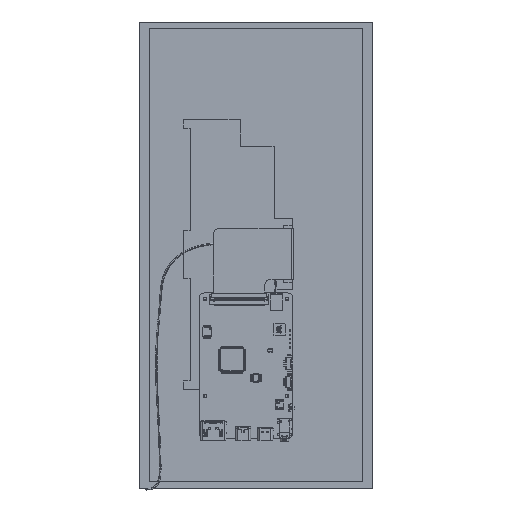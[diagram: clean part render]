
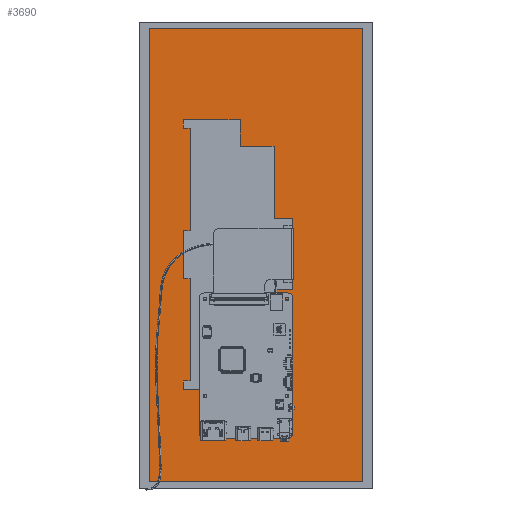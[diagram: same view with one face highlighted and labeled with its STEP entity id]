
A CAD part, top view. The second image highlights one B-rep face of the part: STEP entity #3690.
In plain terms, the highlighted planar face has unit normal (0, 0, 1).
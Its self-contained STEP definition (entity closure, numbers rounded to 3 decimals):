
#1234=DIRECTION('',(1.,0.,0.));
#1235=VECTOR('',#1234,28.7);
#1236=CARTESIAN_POINT('',(-9.45,-64.15,4.));
#1237=LINE('',#1236,#1235);
#1241=DIRECTION('',(0.,-1.,0.));
#1242=VECTOR('',#1241,26.);
#1243=CARTESIAN_POINT('',(19.25,-38.15,4.));
#1244=LINE('',#1243,#1242);
#1248=DIRECTION('',(1.,0.,0.));
#1249=VECTOR('',#1248,8.5);
#1250=CARTESIAN_POINT('',(10.75,-38.15,4.));
#1251=LINE('',#1250,#1249);
#1255=DIRECTION('',(0.,-1.,0.));
#1256=VECTOR('',#1255,18.);
#1257=CARTESIAN_POINT('',(10.75,-20.15,4.));
#1258=LINE('',#1257,#1256);
#1262=DIRECTION('',(-1.,0.,0.));
#1263=VECTOR('',#1262,11.);
#1264=CARTESIAN_POINT('',(21.75,-20.15,4.));
#1265=LINE('',#1264,#1263);
#1269=DIRECTION('',(0.,1.,0.));
#1270=VECTOR('',#1269,42.);
#1271=CARTESIAN_POINT('',(21.75,-20.15,4.));
#1272=LINE('',#1271,#1270);
#1276=DIRECTION('',(1.,0.,0.));
#1277=VECTOR('',#1276,11.);
#1278=CARTESIAN_POINT('',(10.75,21.85,4.));
#1279=LINE('',#1278,#1277);
#1283=DIRECTION('',(0.,-1.,0.));
#1284=VECTOR('',#1283,43.);
#1285=CARTESIAN_POINT('',(10.75,64.85,4.));
#1286=LINE('',#1285,#1284);
#1290=DIRECTION('',(-1.,0.,0.));
#1291=VECTOR('',#1290,20.2);
#1292=CARTESIAN_POINT('',(10.75,64.85,4.));
#1293=LINE('',#1292,#1291);
#1297=DIRECTION('',(0.,1.,0.));
#1298=VECTOR('',#1297,16.);
#1299=CARTESIAN_POINT('',(-9.45,64.85,4.));
#1300=LINE('',#1299,#1298);
#1304=DIRECTION('',(-1.,0.,0.));
#1305=VECTOR('',#1304,33.8);
#1306=CARTESIAN_POINT('',(-9.45,80.85,4.));
#1307=LINE('',#1306,#1305);
#1311=DIRECTION('',(0.,-1.,0.));
#1312=VECTOR('',#1311,5.25);
#1313=CARTESIAN_POINT('',(-43.25,80.85,4.));
#1314=LINE('',#1313,#1312);
#1318=DIRECTION('',(1.,0.,0.));
#1319=VECTOR('',#1318,4.);
#1320=CARTESIAN_POINT('',(-43.25,75.6,4.));
#1321=LINE('',#1320,#1319);
#1325=DIRECTION('',(0.,-1.,0.));
#1326=VECTOR('',#1325,61.);
#1327=CARTESIAN_POINT('',(-39.25,75.6,4.));
#1328=LINE('',#1327,#1326);
#1332=DIRECTION('',(-1.,0.,0.));
#1333=VECTOR('',#1332,4.);
#1334=CARTESIAN_POINT('',(-39.25,14.6,4.));
#1335=LINE('',#1334,#1333);
#1339=DIRECTION('',(0.,-1.,0.));
#1340=VECTOR('',#1339,28.5);
#1341=CARTESIAN_POINT('',(-43.25,14.6,4.));
#1342=LINE('',#1341,#1340);
#1346=DIRECTION('',(1.,0.,0.));
#1347=VECTOR('',#1346,4.);
#1348=CARTESIAN_POINT('',(-43.25,-13.9,4.));
#1349=LINE('',#1348,#1347);
#1353=DIRECTION('',(0.,-1.,0.));
#1354=VECTOR('',#1353,61.);
#1355=CARTESIAN_POINT('',(-39.25,-13.9,4.));
#1356=LINE('',#1355,#1354);
#1360=DIRECTION('',(-1.,0.,0.));
#1361=VECTOR('',#1360,4.);
#1362=CARTESIAN_POINT('',(-39.25,-74.9,4.));
#1363=LINE('',#1362,#1361);
#1367=DIRECTION('',(0.,-1.,0.));
#1368=VECTOR('',#1367,5.25);
#1369=CARTESIAN_POINT('',(-43.25,-74.9,4.));
#1370=LINE('',#1369,#1368);
#1374=DIRECTION('',(1.,0.,0.));
#1375=VECTOR('',#1374,33.8);
#1376=CARTESIAN_POINT('',(-43.25,-80.15,4.));
#1377=LINE('',#1376,#1375);
#1381=DIRECTION('',(0.,1.,0.));
#1382=VECTOR('',#1381,16.);
#1383=CARTESIAN_POINT('',(-9.45,-80.15,4.));
#1384=LINE('',#1383,#1382);
#1388=DIRECTION('',(0.,-1.,0.));
#1389=VECTOR('',#1388,270.);
#1390=CARTESIAN_POINT('',(63.55,135.,4.));
#1391=LINE('',#1390,#1389);
#1395=DIRECTION('',(-1.,0.,0.));
#1396=VECTOR('',#1395,127.1);
#1397=CARTESIAN_POINT('',(63.55,-135.,4.));
#1398=LINE('',#1397,#1396);
#1402=DIRECTION('',(0.,1.,0.));
#1403=VECTOR('',#1402,270.);
#1404=CARTESIAN_POINT('',(-63.55,-135.,4.));
#1405=LINE('',#1404,#1403);
#1409=DIRECTION('',(1.,0.,0.));
#1410=VECTOR('',#1409,127.1);
#1411=CARTESIAN_POINT('',(-63.55,135.,4.));
#1412=LINE('',#1411,#1410);
#1871=CARTESIAN_POINT('',(-9.45,64.85,4.));
#1872=CARTESIAN_POINT('',(-9.45,80.85,4.));
#1873=VERTEX_POINT('',#1871);
#1874=VERTEX_POINT('',#1872);
#1875=CARTESIAN_POINT('',(-43.25,80.85,4.));
#1876=VERTEX_POINT('',#1875);
#1877=CARTESIAN_POINT('',(-43.25,75.6,4.));
#1878=VERTEX_POINT('',#1877);
#1879=CARTESIAN_POINT('',(-39.25,75.6,4.));
#1880=VERTEX_POINT('',#1879);
#1881=CARTESIAN_POINT('',(-39.25,-13.9,4.));
#1882=CARTESIAN_POINT('',(-39.25,-74.9,4.));
#1883=VERTEX_POINT('',#1881);
#1884=VERTEX_POINT('',#1882);
#1885=CARTESIAN_POINT('',(-43.25,-80.15,4.));
#1886=CARTESIAN_POINT('',(-9.45,-80.15,4.));
#1887=VERTEX_POINT('',#1885);
#1888=VERTEX_POINT('',#1886);
#1929=CARTESIAN_POINT('',(63.55,135.,4.));
#1930=CARTESIAN_POINT('',(63.55,-135.,4.));
#1931=VERTEX_POINT('',#1929);
#1932=VERTEX_POINT('',#1930);
#1933=CARTESIAN_POINT('',(-63.55,-135.,4.));
#1934=VERTEX_POINT('',#1933);
#1935=CARTESIAN_POINT('',(-63.55,135.,4.));
#1936=VERTEX_POINT('',#1935);
#1947=CARTESIAN_POINT('',(-39.25,14.6,4.));
#1948=VERTEX_POINT('',#1947);
#1949=CARTESIAN_POINT('',(-43.25,14.6,4.));
#1950=VERTEX_POINT('',#1949);
#1951=CARTESIAN_POINT('',(-43.25,-13.9,4.));
#1952=VERTEX_POINT('',#1951);
#1953=CARTESIAN_POINT('',(-43.25,-74.9,4.));
#1954=VERTEX_POINT('',#1953);
#1955=CARTESIAN_POINT('',(-9.45,-64.15,4.));
#1956=VERTEX_POINT('',#1955);
#1957=CARTESIAN_POINT('',(10.75,-20.15,4.));
#1958=CARTESIAN_POINT('',(10.75,-38.15,4.));
#1959=VERTEX_POINT('',#1957);
#1960=VERTEX_POINT('',#1958);
#1961=CARTESIAN_POINT('',(19.25,-38.15,4.));
#1962=VERTEX_POINT('',#1961);
#1977=CARTESIAN_POINT('',(10.75,64.85,4.));
#1978=VERTEX_POINT('',#1977);
#1979=CARTESIAN_POINT('',(21.75,21.85,4.));
#1980=VERTEX_POINT('',#1979);
#1981=CARTESIAN_POINT('',(21.75,-20.15,4.));
#1983=VERTEX_POINT('',#1981);
#1985=CARTESIAN_POINT('',(19.25,-64.15,4.));
#1986=VERTEX_POINT('',#1985);
#1987=CARTESIAN_POINT('',(10.75,21.85,4.));
#1988=VERTEX_POINT('',#1987);
#3635=CARTESIAN_POINT('',(0.,0.,4.));
#3636=DIRECTION('',(0.,0.,1.));
#3637=DIRECTION('',(0.,-1.,0.));
#3638=AXIS2_PLACEMENT_3D('',#3635,#3636,#3637);
#3639=PLANE('',#3638);
#3641=ORIENTED_EDGE('',*,*,#3640,.T.);
#3643=ORIENTED_EDGE('',*,*,#3642,.T.);
#3645=ORIENTED_EDGE('',*,*,#3644,.T.);
#3647=ORIENTED_EDGE('',*,*,#3646,.T.);
#3648=EDGE_LOOP('',(#3641,#3643,#3645,#3647));
#3649=FACE_OUTER_BOUND('',#3648,.F.);
#3651=ORIENTED_EDGE('',*,*,#3650,.T.);
#3653=ORIENTED_EDGE('',*,*,#3652,.F.);
#3655=ORIENTED_EDGE('',*,*,#3654,.F.);
#3657=ORIENTED_EDGE('',*,*,#3656,.F.);
#3658=ORIENTED_EDGE('',*,*,#3520,.F.);
#3659=ORIENTED_EDGE('',*,*,#3536,.T.);
#3660=ORIENTED_EDGE('',*,*,#3563,.F.);
#3661=ORIENTED_EDGE('',*,*,#3577,.F.);
#3662=ORIENTED_EDGE('',*,*,#3592,.T.);
#3663=ORIENTED_EDGE('',*,*,#3614,.T.);
#3665=ORIENTED_EDGE('',*,*,#3664,.T.);
#3667=ORIENTED_EDGE('',*,*,#3666,.T.);
#3669=ORIENTED_EDGE('',*,*,#3668,.T.);
#3671=ORIENTED_EDGE('',*,*,#3670,.T.);
#3673=ORIENTED_EDGE('',*,*,#3672,.T.);
#3675=ORIENTED_EDGE('',*,*,#3674,.T.);
#3677=ORIENTED_EDGE('',*,*,#3676,.T.);
#3679=ORIENTED_EDGE('',*,*,#3678,.T.);
#3681=ORIENTED_EDGE('',*,*,#3680,.T.);
#3683=ORIENTED_EDGE('',*,*,#3682,.T.);
#3685=ORIENTED_EDGE('',*,*,#3684,.T.);
#3687=ORIENTED_EDGE('',*,*,#3686,.T.);
#3688=EDGE_LOOP('',(#3651,#3653,#3655,#3657,#3658,#3659,#3660,#3661,#3662,#3663,
#3665,#3667,#3669,#3671,#3673,#3675,#3677,#3679,#3681,#3683,#3685,#3687));
#3689=FACE_BOUND('',#3688,.F.);
#3690=ADVANCED_FACE('',(#3649,#3689),#3639,.T.);
#3520=EDGE_CURVE('',#1983,#1959,#1265,.T.);
#3536=EDGE_CURVE('',#1983,#1980,#1272,.T.);
#3563=EDGE_CURVE('',#1988,#1980,#1279,.T.);
#3577=EDGE_CURVE('',#1978,#1988,#1286,.T.);
#3592=EDGE_CURVE('',#1978,#1873,#1293,.T.);
#3614=EDGE_CURVE('',#1873,#1874,#1300,.T.);
#3640=EDGE_CURVE('',#1931,#1932,#1391,.T.);
#3642=EDGE_CURVE('',#1932,#1934,#1398,.T.);
#3644=EDGE_CURVE('',#1934,#1936,#1405,.T.);
#3646=EDGE_CURVE('',#1936,#1931,#1412,.T.);
#3650=EDGE_CURVE('',#1956,#1986,#1237,.T.);
#3652=EDGE_CURVE('',#1962,#1986,#1244,.T.);
#3654=EDGE_CURVE('',#1960,#1962,#1251,.T.);
#3656=EDGE_CURVE('',#1959,#1960,#1258,.T.);
#3664=EDGE_CURVE('',#1874,#1876,#1307,.T.);
#3666=EDGE_CURVE('',#1876,#1878,#1314,.T.);
#3668=EDGE_CURVE('',#1878,#1880,#1321,.T.);
#3670=EDGE_CURVE('',#1880,#1948,#1328,.T.);
#3672=EDGE_CURVE('',#1948,#1950,#1335,.T.);
#3674=EDGE_CURVE('',#1950,#1952,#1342,.T.);
#3676=EDGE_CURVE('',#1952,#1883,#1349,.T.);
#3678=EDGE_CURVE('',#1883,#1884,#1356,.T.);
#3680=EDGE_CURVE('',#1884,#1954,#1363,.T.);
#3682=EDGE_CURVE('',#1954,#1887,#1370,.T.);
#3684=EDGE_CURVE('',#1887,#1888,#1377,.T.);
#3686=EDGE_CURVE('',#1888,#1956,#1384,.T.);
